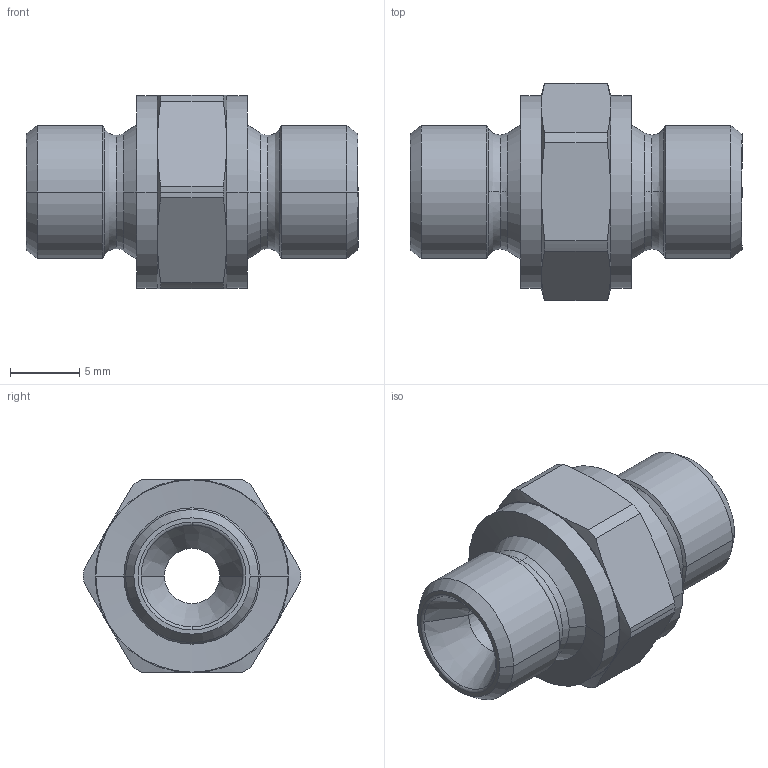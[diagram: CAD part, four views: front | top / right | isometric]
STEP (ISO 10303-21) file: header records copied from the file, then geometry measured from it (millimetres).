
FILE_DESCRIPTION((''),'2;1');
FILE_NAME('300501.stp','2006-09-11T08:08:00',(''),(''),'AutoCAD STEP 2000i','AutoCAD 2000i',', , ');
FILE_SCHEMA(('CONFIG_CONTROL_DESIGN'));
Length unit declared in the file: millimetre
Products named in the file (2): 300501.0; CHIAVE SMUSSATA#0
Assembly tree (1 placements, depth 2):
  300501.0
    CHIAVE SMUSSATA#0
Bounding box: 24 x 15.7 x 14 mm (x, y, z)
Volume: 1989.2 mm3; surface area: 1435.6 mm2
Topology: 1 solids, 1 shells, 72 faces, 170 edges, 102 vertices
Faces by surface type: cone 32, cylinder 18, plane 10, bspline 8, torus 4
Entity records: 2493 total; most frequent: CARTESIAN_POINT 746, DIRECTION 380, ORIENTED_EDGE 340, EDGE_CURVE 170, AXIS2_PLACEMENT_3D 168, VERTEX_POINT 102, CIRCLE 102, EDGE_LOOP 76
